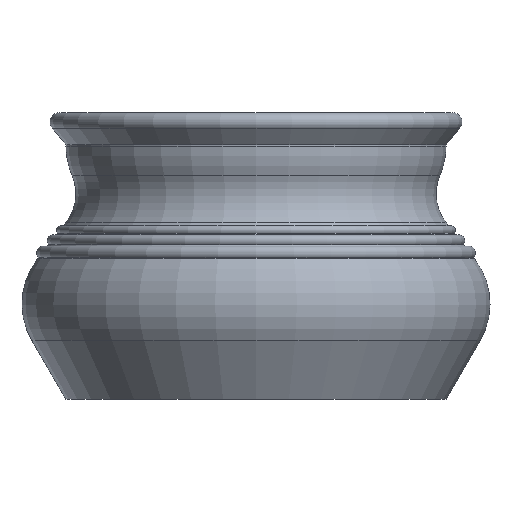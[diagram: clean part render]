
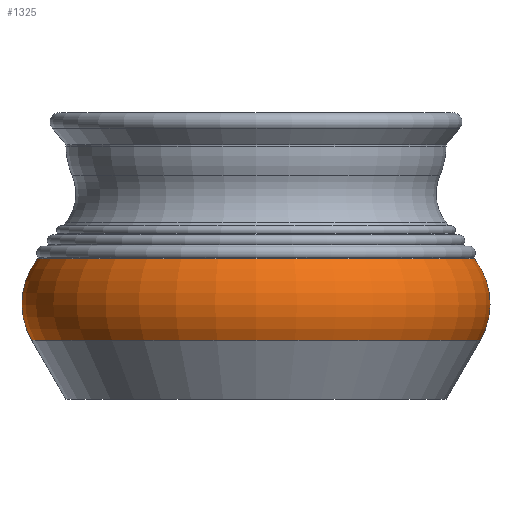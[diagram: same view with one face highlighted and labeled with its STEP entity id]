
A CAD part, front view. The second image highlights one B-rep face of the part: STEP entity #1325.
In plain terms, the highlighted toroidal (fillet/blend) face has major radius 84.261 mm and minor radius 38.099 mm.
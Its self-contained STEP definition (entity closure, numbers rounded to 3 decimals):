
#22=TOROIDAL_SURFACE('',#1505,84.261,38.099);
#166=FACE_OUTER_BOUND('',#284,.T.);
#284=EDGE_LOOP('',(#1208,#1209,#1210,#1211));
#526=CIRCLE('',#1467,117.243);
#549=CIRCLE('',#1506,114.249);
#550=CIRCLE('',#1507,38.099);
#653=VERTEX_POINT('',#2240);
#669=VERTEX_POINT('',#2303);
#818=EDGE_CURVE('',#653,#653,#526,.T.);
#849=EDGE_CURVE('',#669,#669,#549,.T.);
#850=EDGE_CURVE('',#669,#653,#550,.T.);
#1208=ORIENTED_EDGE('',*,*,#849,.F.);
#1209=ORIENTED_EDGE('',*,*,#850,.T.);
#1210=ORIENTED_EDGE('',*,*,#818,.T.);
#1211=ORIENTED_EDGE('',*,*,#850,.F.);
#1325=ADVANCED_FACE('',(#166),#22,.T.);
#1467=AXIS2_PLACEMENT_3D('',#2241,#1837,#1838);
#1505=AXIS2_PLACEMENT_3D('',#2302,#1921,#1922);
#1506=AXIS2_PLACEMENT_3D('',#2304,#1923,#1924);
#1507=AXIS2_PLACEMENT_3D('',#2305,#1925,#1926);
#1837=DIRECTION('center_axis',(0.,0.,1.));
#1838=DIRECTION('ref_axis',(1.,0.,0.));
#1921=DIRECTION('center_axis',(0.,0.,1.));
#1922=DIRECTION('ref_axis',(1.,0.,0.));
#1923=DIRECTION('center_axis',(0.,0.,1.));
#1924=DIRECTION('ref_axis',(1.,0.,0.));
#1925=DIRECTION('center_axis',(0.,-1.,0.));
#1926=DIRECTION('ref_axis',(-1.,0.,0.));
#2240=CARTESIAN_POINT('',(-117.243,0.,30.929));
#2241=CARTESIAN_POINT('Origin',(0.,0.,30.929));
#2302=CARTESIAN_POINT('Origin',(0.,0.,50.));
#2303=CARTESIAN_POINT('',(-114.249,0.,73.5));
#2304=CARTESIAN_POINT('Origin',(0.,0.,73.5));
#2305=CARTESIAN_POINT('Origin',(-84.261,0.,
50.));
